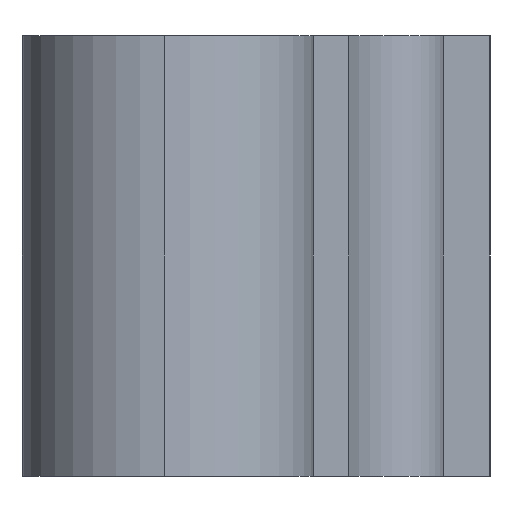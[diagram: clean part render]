
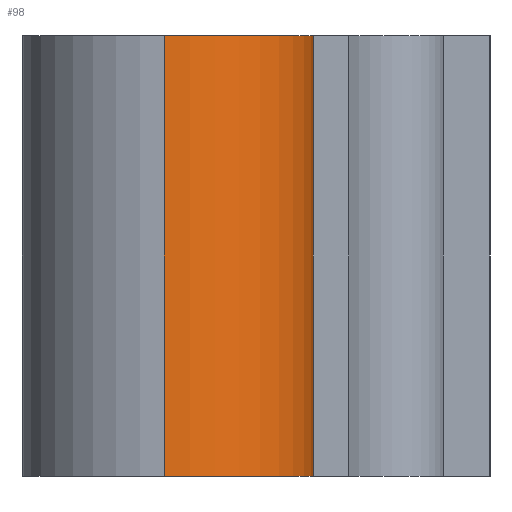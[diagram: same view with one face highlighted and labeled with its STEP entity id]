
A CAD part, left-side view. The second image highlights one B-rep face of the part: STEP entity #98.
In plain terms, the highlighted cylindrical face has radius 8.611 mm (diameter 17.221 mm), a partial arc.
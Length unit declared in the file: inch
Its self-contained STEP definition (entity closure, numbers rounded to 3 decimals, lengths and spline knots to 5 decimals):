
#5 = VERTEX_POINT ( 'NONE', #365 ) ;
#10 = CARTESIAN_POINT ( 'NONE',  ( -5.25, 0.74, -1. ) ) ;
#49 = ORIENTED_EDGE ( 'NONE', *, *, #335, .T. ) ;
#60 = DIRECTION ( 'NONE',  ( 1., 0., 0. ) ) ;
#63 = DIRECTION ( 'NONE',  ( 1., 0., 0. ) ) ;
#72 = CARTESIAN_POINT ( 'NONE',  ( -5.25, 0.74, 0. ) ) ;
#81 = VERTEX_POINT ( 'NONE', #210 ) ;
#97 = CARTESIAN_POINT ( 'NONE',  ( -4.911, 0.401, 0. ) ) ;
#98 = ADVANCED_FACE ( 'NONE', ( #405 ), #371, .T. ) ;
#125 = AXIS2_PLACEMENT_3D ( 'NONE', #349, #184, #374 ) ;
#150 = AXIS2_PLACEMENT_3D ( 'NONE', #151, #255, #63 ) ;
#151 = CARTESIAN_POINT ( 'NONE',  ( -4.911, 0.74, 0. ) ) ;
#170 = CARTESIAN_POINT ( 'NONE',  ( -4.911, 0.401, -1. ) ) ;
#175 = CARTESIAN_POINT ( 'NONE',  ( -4.911, 0.74, -1. ) ) ;
#184 = DIRECTION ( 'NONE',  ( 0., 0., 1. ) ) ;
#200 = LINE ( 'NONE', #10, #309 ) ;
#210 = CARTESIAN_POINT ( 'NONE',  ( -5.25, 0.74, -1. ) ) ;
#220 = EDGE_CURVE ( 'NONE', #392, #291, #258, .T. ) ;
#253 = AXIS2_PLACEMENT_3D ( 'NONE', #175, #342, #60 ) ;
#255 = DIRECTION ( 'NONE',  ( 0., 0., 1. ) ) ;
#258 = CIRCLE ( 'NONE', #150, 0.339 ) ;
#291 = VERTEX_POINT ( 'NONE', #97 ) ;
#292 = EDGE_CURVE ( 'NONE', #81, #5, #333, .T. ) ;
#295 = LINE ( 'NONE', #170, #373 ) ;
#298 = ORIENTED_EDGE ( 'NONE', *, *, #292, .T. ) ;
#309 = VECTOR ( 'NONE', #321, 39.37008 ) ;
#321 = DIRECTION ( 'NONE',  ( 0., 0., 1. ) ) ;
#322 = ORIENTED_EDGE ( 'NONE', *, *, #220, .F. ) ;
#324 = EDGE_LOOP ( 'NONE', ( #322, #356, #298, #49 ) ) ;
#333 = CIRCLE ( 'NONE', #125, 0.339 ) ;
#335 = EDGE_CURVE ( 'NONE', #5, #291, #295, .T. ) ;
#342 = DIRECTION ( 'NONE',  ( 0., 0., 1. ) ) ;
#348 = EDGE_CURVE ( 'NONE', #81, #392, #200, .T. ) ;
#349 = CARTESIAN_POINT ( 'NONE',  ( -4.911, 0.74, -1. ) ) ;
#352 = DIRECTION ( 'NONE',  ( 0., 0., 1. ) ) ;
#356 = ORIENTED_EDGE ( 'NONE', *, *, #348, .F. ) ;
#365 = CARTESIAN_POINT ( 'NONE',  ( -4.911, 0.401, -1. ) ) ;
#371 = CYLINDRICAL_SURFACE ( 'NONE', #253, 0.339 ) ;
#373 = VECTOR ( 'NONE', #352, 39.37008 ) ;
#374 = DIRECTION ( 'NONE',  ( 1., 0., 0. ) ) ;
#392 = VERTEX_POINT ( 'NONE', #72 ) ;
#405 = FACE_OUTER_BOUND ( 'NONE', #324, .T. ) ;
